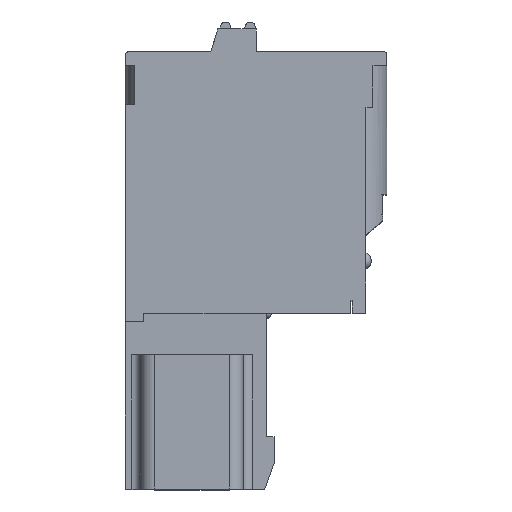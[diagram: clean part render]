
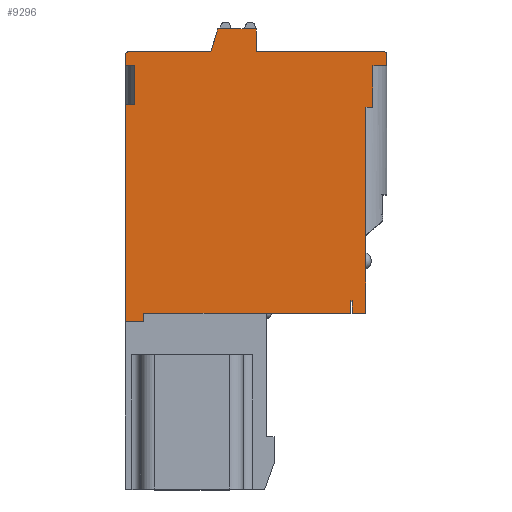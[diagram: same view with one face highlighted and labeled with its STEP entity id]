
A CAD part, top view. The second image highlights one B-rep face of the part: STEP entity #9296.
In plain terms, the highlighted planar face has unit normal (0, 0, 1).
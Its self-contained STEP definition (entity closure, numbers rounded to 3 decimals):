
#81=DIRECTION('',(0.,1.,0.));
#82=VECTOR('',#81,11.8);
#83=CARTESIAN_POINT('',(13.8,0.5,0.));
#84=LINE('',#83,#82);
#323=DIRECTION('',(0.,1.,0.));
#324=VECTOR('',#323,2.4);
#325=CARTESIAN_POINT('',(14.2,12.3,0.));
#326=LINE('',#325,#324);
#331=DIRECTION('',(1.,0.,0.));
#332=VECTOR('',#331,0.4);
#333=CARTESIAN_POINT('',(13.8,12.3,0.));
#334=LINE('',#333,#332);
#348=DIRECTION('',(-1.,0.,0.));
#349=VECTOR('',#348,7.026);
#350=CARTESIAN_POINT('',(8.08,0.5,0.));
#351=LINE('',#350,#349);
#352=DIRECTION('',(0.,-1.,0.));
#353=VECTOR('',#352,0.5);
#354=CARTESIAN_POINT('',(1.054,0.5,0.));
#355=LINE('',#354,#353);
#356=DIRECTION('',(-1.,0.,0.));
#357=VECTOR('',#356,0.55);
#358=CARTESIAN_POINT('',(0.55,14.7,0.));
#359=LINE('',#358,#357);
#360=CARTESIAN_POINT('',(0.2,15.3,0.));
#361=DIRECTION('',(0.,0.,-1.));
#362=DIRECTION('',(-1.,0.,0.));
#363=AXIS2_PLACEMENT_3D('',#360,#361,#362);
#365=DIRECTION('',(1.,0.,0.));
#366=VECTOR('',#365,4.703);
#367=CARTESIAN_POINT('',(0.2,15.5,0.));
#368=LINE('',#367,#366);
#369=DIRECTION('',(0.292,0.956,0.));
#370=VECTOR('',#369,1.359);
#371=CARTESIAN_POINT('',(4.903,15.5,0.));
#372=LINE('',#371,#370);
#373=DIRECTION('',(1.,0.,0.));
#374=VECTOR('',#373,7.3);
#375=CARTESIAN_POINT('',(7.5,15.5,0.));
#376=LINE('',#375,#374);
#377=CARTESIAN_POINT('',(14.8,15.3,0.));
#378=DIRECTION('',(0.,0.,-1.));
#379=DIRECTION('',(0.,1.,0.));
#380=AXIS2_PLACEMENT_3D('',#377,#378,#379);
#382=DIRECTION('',(-1.,0.,0.));
#383=VECTOR('',#382,0.1);
#384=CARTESIAN_POINT('',(13.,1.2,0.));
#385=LINE('',#384,#383);
#386=DIRECTION('',(0.,-1.,0.));
#387=VECTOR('',#386,0.7);
#388=CARTESIAN_POINT('',(12.9,1.2,0.));
#389=LINE('',#388,#387);
#390=DIRECTION('',(-1.,0.,0.));
#391=VECTOR('',#390,4.82);
#392=CARTESIAN_POINT('',(12.9,0.5,0.));
#393=LINE('',#392,#391);
#1853=DIRECTION('',(0.,-1.,0.));
#1854=VECTOR('',#1853,0.7);
#1855=CARTESIAN_POINT('',(13.,1.2,0.));
#1856=LINE('',#1855,#1854);
#1913=DIRECTION('',(1.,0.,0.));
#1914=VECTOR('',#1913,0.8);
#1915=CARTESIAN_POINT('',(13.,0.5,0.));
#1916=LINE('',#1915,#1914);
#1989=DIRECTION('',(1.,0.,0.));
#1990=VECTOR('',#1989,1.054);
#1991=CARTESIAN_POINT('',(0.,0.,0.));
#1992=LINE('',#1991,#1990);
#2049=DIRECTION('',(0.,-1.,0.));
#2050=VECTOR('',#2049,12.45);
#2051=CARTESIAN_POINT('',(0.,12.45,0.));
#2052=LINE('',#2051,#2050);
#2107=DIRECTION('',(0.,-1.,0.));
#2108=VECTOR('',#2107,0.6);
#2109=CARTESIAN_POINT('',(0.,15.3,0.));
#2110=LINE('',#2109,#2108);
#2724=DIRECTION('',(0.,1.,0.));
#2725=VECTOR('',#2724,1.3);
#2726=CARTESIAN_POINT('',(7.5,15.5,0.));
#2727=LINE('',#2726,#2725);
#2732=DIRECTION('',(-1.,0.,0.));
#2733=VECTOR('',#2732,2.2);
#2734=CARTESIAN_POINT('',(7.5,16.8,0.));
#2735=LINE('',#2734,#2733);
#2980=DIRECTION('',(0.,1.,0.));
#2981=VECTOR('',#2980,0.6);
#2982=CARTESIAN_POINT('',(15.,14.7,0.));
#2983=LINE('',#2982,#2981);
#3262=DIRECTION('',(1.,0.,0.));
#3263=VECTOR('',#3262,0.8);
#3264=CARTESIAN_POINT('',(14.2,14.7,0.));
#3265=LINE('',#3264,#3263);
#3702=DIRECTION('',(0.,-1.,0.));
#3703=VECTOR('',#3702,2.25);
#3704=CARTESIAN_POINT('',(0.55,14.7,0.));
#3705=LINE('',#3704,#3703);
#3710=DIRECTION('',(-1.,0.,0.));
#3711=VECTOR('',#3710,0.55);
#3712=CARTESIAN_POINT('',(0.55,12.45,0.));
#3713=LINE('',#3712,#3711);
#7401=CARTESIAN_POINT('',(8.08,0.5,0.));
#7402=VERTEX_POINT('',#7401);
#7413=CARTESIAN_POINT('',(12.9,0.5,0.));
#7415=VERTEX_POINT('',#7413);
#7424=CARTESIAN_POINT('',(12.9,1.2,0.));
#7426=VERTEX_POINT('',#7424);
#7427=CARTESIAN_POINT('',(13.,1.2,0.));
#7428=VERTEX_POINT('',#7427);
#7431=CARTESIAN_POINT('',(1.054,0.5,0.));
#7432=VERTEX_POINT('',#7431);
#7433=CARTESIAN_POINT('',(1.054,0.,0.));
#7434=VERTEX_POINT('',#7433);
#7435=CARTESIAN_POINT('',(0.,0.,0.));
#7436=VERTEX_POINT('',#7435);
#7437=CARTESIAN_POINT('',(0.,12.45,0.));
#7438=VERTEX_POINT('',#7437);
#7439=CARTESIAN_POINT('',(0.55,12.45,0.));
#7440=VERTEX_POINT('',#7439);
#7441=CARTESIAN_POINT('',(0.55,14.7,0.));
#7442=VERTEX_POINT('',#7441);
#7443=CARTESIAN_POINT('',(0.,14.7,0.));
#7444=VERTEX_POINT('',#7443);
#7445=CARTESIAN_POINT('',(0.,15.3,0.));
#7446=VERTEX_POINT('',#7445);
#7447=CARTESIAN_POINT('',(0.2,15.5,0.));
#7448=VERTEX_POINT('',#7447);
#7449=CARTESIAN_POINT('',(4.903,15.5,0.));
#7450=VERTEX_POINT('',#7449);
#7451=CARTESIAN_POINT('',(5.3,16.8,0.));
#7452=VERTEX_POINT('',#7451);
#7453=CARTESIAN_POINT('',(7.5,16.8,0.));
#7454=VERTEX_POINT('',#7453);
#7455=CARTESIAN_POINT('',(7.5,15.5,0.));
#7456=VERTEX_POINT('',#7455);
#7457=CARTESIAN_POINT('',(14.8,15.5,0.));
#7458=VERTEX_POINT('',#7457);
#7459=CARTESIAN_POINT('',(15.,15.3,0.));
#7460=VERTEX_POINT('',#7459);
#7461=CARTESIAN_POINT('',(15.,14.7,0.));
#7462=VERTEX_POINT('',#7461);
#7463=CARTESIAN_POINT('',(14.2,14.7,0.));
#7464=VERTEX_POINT('',#7463);
#7465=CARTESIAN_POINT('',(14.2,12.3,0.));
#7466=VERTEX_POINT('',#7465);
#7467=CARTESIAN_POINT('',(13.8,12.3,0.));
#7468=VERTEX_POINT('',#7467);
#7469=CARTESIAN_POINT('',(13.8,0.5,0.));
#7470=VERTEX_POINT('',#7469);
#7471=CARTESIAN_POINT('',(13.,0.5,0.));
#7472=VERTEX_POINT('',#7471);
#9242=CARTESIAN_POINT('',(0.,16.8,0.));
#9243=DIRECTION('',(0.,0.,-1.));
#9244=DIRECTION('',(0.,-1.,0.));
#9245=AXIS2_PLACEMENT_3D('',#9242,#9243,#9244);
#9246=PLANE('',#9245);
#9248=ORIENTED_EDGE('',*,*,#9247,.T.);
#9250=ORIENTED_EDGE('',*,*,#9249,.T.);
#9252=ORIENTED_EDGE('',*,*,#9251,.F.);
#9254=ORIENTED_EDGE('',*,*,#9253,.F.);
#9256=ORIENTED_EDGE('',*,*,#9255,.F.);
#9258=ORIENTED_EDGE('',*,*,#9257,.F.);
#9260=ORIENTED_EDGE('',*,*,#9259,.T.);
#9262=ORIENTED_EDGE('',*,*,#9261,.F.);
#9264=ORIENTED_EDGE('',*,*,#9263,.T.);
#9266=ORIENTED_EDGE('',*,*,#9265,.T.);
#9268=ORIENTED_EDGE('',*,*,#9267,.T.);
#9270=ORIENTED_EDGE('',*,*,#9269,.F.);
#9272=ORIENTED_EDGE('',*,*,#9271,.F.);
#9274=ORIENTED_EDGE('',*,*,#9273,.T.);
#9276=ORIENTED_EDGE('',*,*,#9275,.T.);
#9278=ORIENTED_EDGE('',*,*,#9277,.F.);
#9280=ORIENTED_EDGE('',*,*,#9279,.F.);
#9281=ORIENTED_EDGE('',*,*,#9222,.F.);
#9282=ORIENTED_EDGE('',*,*,#9234,.F.);
#9283=ORIENTED_EDGE('',*,*,#8915,.F.);
#9285=ORIENTED_EDGE('',*,*,#9284,.F.);
#9287=ORIENTED_EDGE('',*,*,#9286,.F.);
#9289=ORIENTED_EDGE('',*,*,#9288,.T.);
#9291=ORIENTED_EDGE('',*,*,#9290,.T.);
#9293=ORIENTED_EDGE('',*,*,#9292,.T.);
#9294=EDGE_LOOP('',(#9248,#9250,#9252,#9254,#9256,#9258,#9260,#9262,#9264,#9266,
#9268,#9270,#9272,#9274,#9276,#9278,#9280,#9281,#9282,#9283,#9285,#9287,#9289,
#9291,#9293));
#9295=FACE_OUTER_BOUND('',#9294,.F.);
#9296=ADVANCED_FACE('',(#9295),#9246,.F.);
#364=CIRCLE('',#363,0.2);
#381=CIRCLE('',#380,0.2);
#8915=EDGE_CURVE('',#7470,#7468,#84,.T.);
#9222=EDGE_CURVE('',#7466,#7464,#326,.T.);
#9234=EDGE_CURVE('',#7468,#7466,#334,.T.);
#9247=EDGE_CURVE('',#7402,#7432,#351,.T.);
#9249=EDGE_CURVE('',#7432,#7434,#355,.T.);
#9251=EDGE_CURVE('',#7436,#7434,#1992,.T.);
#9253=EDGE_CURVE('',#7438,#7436,#2052,.T.);
#9255=EDGE_CURVE('',#7440,#7438,#3713,.T.);
#9257=EDGE_CURVE('',#7442,#7440,#3705,.T.);
#9259=EDGE_CURVE('',#7442,#7444,#359,.T.);
#9261=EDGE_CURVE('',#7446,#7444,#2110,.T.);
#9263=EDGE_CURVE('',#7446,#7448,#364,.T.);
#9265=EDGE_CURVE('',#7448,#7450,#368,.T.);
#9267=EDGE_CURVE('',#7450,#7452,#372,.T.);
#9269=EDGE_CURVE('',#7454,#7452,#2735,.T.);
#9271=EDGE_CURVE('',#7456,#7454,#2727,.T.);
#9273=EDGE_CURVE('',#7456,#7458,#376,.T.);
#9275=EDGE_CURVE('',#7458,#7460,#381,.T.);
#9277=EDGE_CURVE('',#7462,#7460,#2983,.T.);
#9279=EDGE_CURVE('',#7464,#7462,#3265,.T.);
#9284=EDGE_CURVE('',#7472,#7470,#1916,.T.);
#9286=EDGE_CURVE('',#7428,#7472,#1856,.T.);
#9288=EDGE_CURVE('',#7428,#7426,#385,.T.);
#9290=EDGE_CURVE('',#7426,#7415,#389,.T.);
#9292=EDGE_CURVE('',#7415,#7402,#393,.T.);
